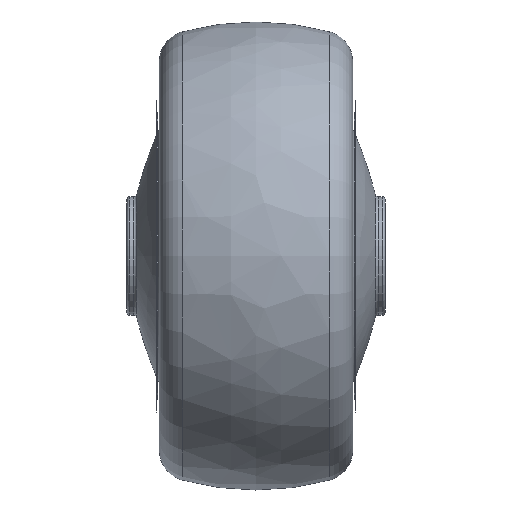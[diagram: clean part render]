
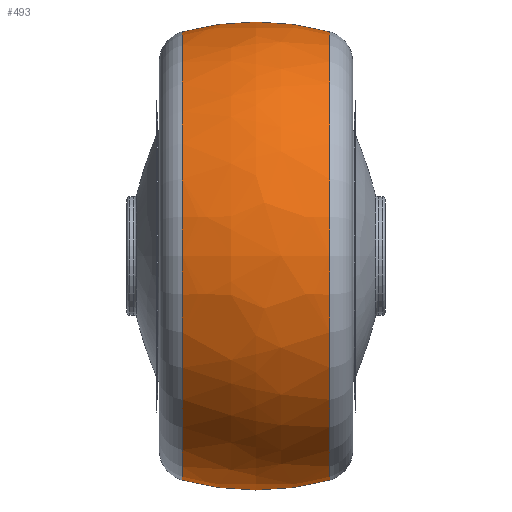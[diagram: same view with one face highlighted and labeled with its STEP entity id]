
A CAD part, top view. The second image highlights one B-rep face of the part: STEP entity #493.
In plain terms, the highlighted free-form (B-spline) face has degree [3, 3] with [7, 4] control points.
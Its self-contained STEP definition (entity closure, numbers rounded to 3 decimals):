
#304=CARTESIAN_POINT('',(-11.813,0.,0.));
#305=DIRECTION('',(-1.,0.,0.));
#306=DIRECTION('',(0.,-1.,0.));
#307=AXIS2_PLACEMENT_3D('',#304,#305,#306);
#309=CARTESIAN_POINT('',(11.813,0.,0.));
#310=DIRECTION('',(-1.,0.,0.));
#311=DIRECTION('',(0.,-1.,0.));
#312=AXIS2_PLACEMENT_3D('',#309,#310,#311);
#319=CARTESIAN_POINT('',(0.,7.5,0.));
#320=DIRECTION('',(0.,0.,-1.));
#321=DIRECTION('',(0.263,-0.965,0.));
#322=AXIS2_PLACEMENT_3D('',#319,#320,#321);
#329=CARTESIAN_POINT('',(0.,-7.5,0.));
#330=DIRECTION('',(0.,0.,1.));
#331=DIRECTION('',(0.263,0.965,0.));
#332=AXIS2_PLACEMENT_3D('',#329,#330,#331);
#376=CARTESIAN_POINT('',(-11.813,35.922,0.));
#377=CARTESIAN_POINT('',(-11.813,-35.922,0.));
#378=VERTEX_POINT('',#376);
#379=VERTEX_POINT('',#377);
#380=CARTESIAN_POINT('',(11.813,35.922,0.));
#381=CARTESIAN_POINT('',(11.813,-35.922,0.));
#382=VERTEX_POINT('',#380);
#383=VERTEX_POINT('',#381);
#455=CARTESIAN_POINT('',(-12.273,35.723,-2.248));
#456=CARTESIAN_POINT('',(-4.197,38.008,-2.391));
#457=CARTESIAN_POINT('',(4.197,38.008,-2.391));
#458=CARTESIAN_POINT('',(12.273,35.723,-2.248));
#459=CARTESIAN_POINT('',(-12.273,37.106,19.737));
#460=CARTESIAN_POINT('',(-4.197,39.48,20.999));
#461=CARTESIAN_POINT('',(4.197,39.48,20.999));
#462=CARTESIAN_POINT('',(12.273,37.106,19.737));
#463=CARTESIAN_POINT('',(-12.273,22.028,35.794));
#464=CARTESIAN_POINT('',(-4.197,23.436,38.083));
#465=CARTESIAN_POINT('',(4.197,23.436,38.083));
#466=CARTESIAN_POINT('',(12.273,22.028,35.794));
#467=CARTESIAN_POINT('',(-12.273,0.,35.794));
#468=CARTESIAN_POINT('',(-4.197,0.,38.083));
#469=CARTESIAN_POINT('',(4.197,0.,38.083));
#470=CARTESIAN_POINT('',(12.273,0.,35.794));
#471=CARTESIAN_POINT('',(-12.273,-22.028,35.794));
#472=CARTESIAN_POINT('',(-4.197,-23.436,38.083));
#473=CARTESIAN_POINT('',(4.197,-23.436,38.083));
#474=CARTESIAN_POINT('',(12.273,-22.028,35.794));
#475=CARTESIAN_POINT('',(-12.273,-37.106,19.737));
#476=CARTESIAN_POINT('',(-4.197,-39.48,20.999));
#477=CARTESIAN_POINT('',(4.197,-39.48,20.999));
#478=CARTESIAN_POINT('',(12.273,-37.106,19.737));
#479=CARTESIAN_POINT('',(-12.273,-35.723,
-2.248));
#480=CARTESIAN_POINT('',(-4.197,-38.008,
-2.391));
#481=CARTESIAN_POINT('',(4.197,-38.008,-2.391));
#482=CARTESIAN_POINT('',(12.273,-35.723,-2.248));
#483=(BOUNDED_SURFACE()B_SPLINE_SURFACE(3,3,((#455,#456,#457,#458),(#459,#460,
#461,#462),(#463,#464,#465,#466),(#467,#468,#469,#470),(#471,#472,#473,#474),(
#475,#476,#477,#478),(#479,#480,#481,#482)),.UNSPECIFIED.,.F.,.F.,.F.)B_SPLINE_SURFACE_WITH_KNOTS((4,3,4),(4,4),(0.,1.,2.),(0.,1.),.UNSPECIFIED.)GEOMETRIC_REPRESENTATION_ITEM()RATIONAL_B_SPLINE_SURFACE(((1.21,
1.18,1.18,1.21),(0.956,
0.932,0.932,0.956),(0.956,
0.932,0.932,0.956),(1.21,
1.18,1.18,1.21),(0.956,
0.932,0.932,0.956),(0.956,
0.932,0.932,0.956),(1.21,
1.18,1.18,1.21)))REPRESENTATION_ITEM('')SURFACE());
#484=ORIENTED_EDGE('',*,*,#442,.T.);
#486=ORIENTED_EDGE('',*,*,#485,.F.);
#488=ORIENTED_EDGE('',*,*,#487,.F.);
#490=ORIENTED_EDGE('',*,*,#489,.T.);
#491=EDGE_LOOP('',(#484,#486,#488,#490));
#492=FACE_OUTER_BOUND('',#491,.F.);
#308=CIRCLE('',#307,35.922);
#313=CIRCLE('',#312,35.922);
#323=CIRCLE('',#322,45.);
#333=CIRCLE('',#332,45.);
#442=EDGE_CURVE('',#379,#378,#308,.T.);
#485=EDGE_CURVE('',#382,#378,#333,.T.);
#487=EDGE_CURVE('',#383,#382,#313,.T.);
#489=EDGE_CURVE('',#383,#379,#323,.T.);
#493=ADVANCED_FACE('',(#492),#483,.T.);
